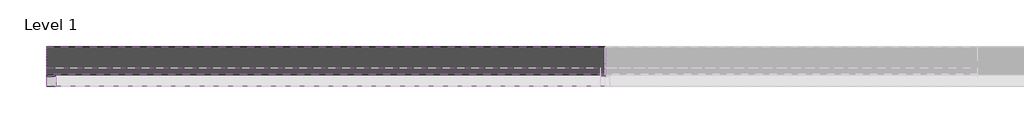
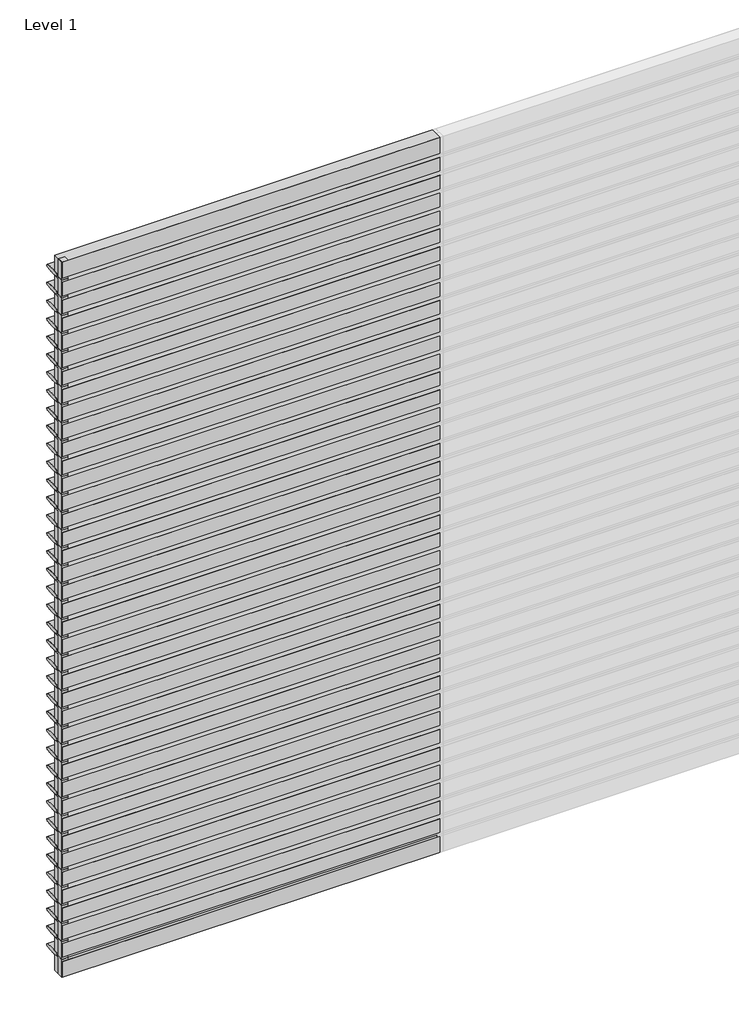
# One storey, part 1 of 3: 79 members, 41 plates.
"""IFC4 building model written with IfcOpenShell, lengths in millimetres."""

import ifcopenshell
import ifcopenshell.guid

model = None  # the IFC model being written
_history = None  # IfcOwnerHistory: only IFC2X3 demands one
_inside = {}  # id of a spatial element -> (the spatial element, [elements in it])
_under = {}  # id of a project, library or spatial element -> (it, [spatial elements below it])
_declared = {}  # id of a project -> (the project, [libraries it declares])
_typed = {}  # id of a type object -> (the type object, [elements of that type])
_made_of = {}  # id of a material, layer set ... -> (it, [elements and type objects made of it])


def new_model(schema):
    """Start an empty IFC model of exactly this schema.

    Asked for "IFC4X3", IfcOpenShell would pick the latest addendum, in which some entities
    have other attributes; the version numbers below select the first issue.
    IFC2X3 requires an IfcOwnerHistory on every rooted entity: one is made here for all.
    """
    global model, _history
    if schema == "IFC4X3":
        model = ifcopenshell.file(schema_version=(4, 3, 0, 0))
    else:
        model = ifcopenshell.file(schema=schema)
    _inside.clear()
    _under.clear()
    _declared.clear()
    _typed.clear()
    _made_of.clear()
    _history = None
    if model.schema == "IFC2X3":
        org = make("IfcOrganization", Name="unknown")
        user = make(
            "IfcPersonAndOrganization",
            ThePerson=make("IfcPerson", FamilyName="unknown"),
            TheOrganization=org,
        )
        app = make(
            "IfcApplication",
            ApplicationDeveloper=org,
            Version="unknown",
            ApplicationFullName="unknown",
            ApplicationIdentifier="unknown",
        )
        _history = make(
            "IfcOwnerHistory",
            OwningUser=user,
            OwningApplication=app,
            ChangeAction="ADDED",
            CreationDate=0,
        )
    return model


def make(cls, **values):
    """One entity of the class cls with the attributes given. An attribute that is None is left unset."""
    return model.create_entity(
        cls, **{name: value for name, value in values.items() if value is not None}
    )


def rooted(cls, **values):
    """An entity with a GlobalId (a new one), such as an element, a storey or a relation."""
    return make(cls, GlobalId=ifcopenshell.guid.new(), OwnerHistory=_history, **values)


def si_unit(unit_type, name, prefix=None):
    """IfcSIUnit, for example si_unit("LENGTHUNIT", "METRE", prefix="MILLI")."""
    return make("IfcSIUnit", UnitType=unit_type, Prefix=prefix, Name=name)


def assignment(units):
    """IfcUnitAssignment: the units of a project."""
    return None if units is None else make("IfcUnitAssignment", Units=units)


def point(xyz):
    """IfcCartesianPoint."""
    return None if xyz is None else make("IfcCartesianPoint", Coordinates=xyz)


def direction(xyz):
    """IfcDirection."""
    return None if xyz is None else make("IfcDirection", DirectionRatios=xyz)


def frame(location, z_axis=None, x_axis=None):
    """IfcAxis2Placement3D, a coordinate frame: its origin and axes. An axis left out is left unset."""
    return make(
        "IfcAxis2Placement3D",
        Location=point(location),
        Axis=direction(z_axis),
        RefDirection=direction(x_axis),
    )


def origin():
    """The frame at (0, 0, 0) with its axes left unset."""
    return frame((0.0, 0.0, 0.0))


def origin_with_axes():
    """The frame at (0, 0, 0) with the z axis (0, 0, 1) and the x axis (1, 0, 0) written out."""
    return frame((0.0, 0.0, 0.0), z_axis=(0.0, 0.0, 1.0), x_axis=(1.0, 0.0, 0.0))


def place(relative_to, where):
    """IfcLocalPlacement: puts the frame where relative to a parent placement (None: the world)."""
    return make(
        "IfcLocalPlacement", PlacementRelTo=relative_to, RelativePlacement=where
    )


def context(
    kind, dimensions, precision=None, world=None, true_north=None, identifier=None
):
    """IfcGeometricRepresentationContext, for example the 3D "Model" context."""
    return make(
        "IfcGeometricRepresentationContext",
        ContextIdentifier=identifier,
        ContextType=kind,
        CoordinateSpaceDimension=dimensions,
        Precision=precision,
        WorldCoordinateSystem=world,
        TrueNorth=true_north,
    )


def project(units=None, contexts=None):
    """IfcProject with its units and contexts."""
    return rooted(
        "IfcProject",
        Name="project",
        RepresentationContexts=contexts,
        UnitsInContext=assignment(units),
    )


def spatial(cls, under=None, at=None, **own):
    """A site, building, storey or space (cls), placed at a placement, below another one or the project."""
    s = rooted(cls, ObjectPlacement=at, **own)
    if under is not None:
        _under.setdefault(under.id(), (under, []))[1].append(s)
    return s


def polyline(points):
    """IfcPolyline through the points."""
    return make("IfcPolyline", Points=[point(p) for p in points])


def ellipse_curve(where, semi_axis1, semi_axis2):
    """IfcEllipse in the frame where."""
    return make(
        "IfcEllipse", Position=where, SemiAxis1=semi_axis1, SemiAxis2=semi_axis2
    )


def trimmed(basis, trim1, trim2, sense, master):
    """IfcTrimmedCurve: the piece of a basis curve between two trims."""
    return make(
        "IfcTrimmedCurve",
        BasisCurve=basis,
        Trim1=trim1,
        Trim2=trim2,
        SenseAgreement=sense,
        MasterRepresentation=master,
    )


def outline(outer, holes=None, kind="AREA"):
    """IfcArbitraryClosedProfileDef: a profile drawn as a closed curve; with holes, ...WithVoids."""
    if holes is None:
        return make("IfcArbitraryClosedProfileDef", ProfileType=kind, OuterCurve=outer)
    return make(
        "IfcArbitraryProfileDefWithVoids",
        ProfileType=kind,
        OuterCurve=outer,
        InnerCurves=holes,
    )


def extrude(swept, where, along, depth):
    """IfcExtrudedAreaSolid: the profile swept, set in the frame where, extruded along a direction by depth."""
    return make(
        "IfcExtrudedAreaSolid",
        SweptArea=swept,
        Position=where,
        ExtrudedDirection=direction(along),
        Depth=depth,
    )


def shape(context_of_items, identifier, shape_type, items):
    """IfcShapeRepresentation: the items that make up one representation, for example the "Body"."""
    return make(
        "IfcShapeRepresentation",
        ContextOfItems=context_of_items,
        RepresentationIdentifier=identifier,
        RepresentationType=shape_type,
        Items=items,
    )


def source(mapping_origin, context_of_items, identifier, shape_type, items):
    """IfcRepresentationMap: a shape defined once, which mapped items show again and again."""
    return make(
        "IfcRepresentationMap",
        MappingOrigin=mapping_origin,
        MappedRepresentation=shape(context_of_items, identifier, shape_type, items),
    )


def transform(
    local_origin,
    x_axis=None,
    y_axis=None,
    z_axis=None,
    scale=None,
    scale2=None,
    scale3=None,
    uniform=True,
):
    """IfcCartesianTransformationOperator3D, or its non-uniform kind. x_axis, y_axis, z_axis: its Axis1, 2, 3."""
    if uniform:
        return make(
            "IfcCartesianTransformationOperator3D",
            Axis1=direction(x_axis),
            Axis2=direction(y_axis),
            LocalOrigin=point(local_origin),
            Scale=scale,
            Axis3=direction(z_axis),
        )
    return make(
        "IfcCartesianTransformationOperator3DnonUniform",
        Axis1=direction(x_axis),
        Axis2=direction(y_axis),
        LocalOrigin=point(local_origin),
        Scale=scale,
        Axis3=direction(z_axis),
        Scale2=scale2,
        Scale3=scale3,
    )


def mapped(mapping_source, mapping_target):
    """IfcMappedItem: shows the shape of a source again, moved by a transform."""
    return make(
        "IfcMappedItem", MappingSource=mapping_source, MappingTarget=mapping_target
    )


def made_of(thing, what):
    """Note that an element or type object is made of a material, layer set ...; save() writes the relation."""
    if what is not None:
        _made_of.setdefault(what.id(), (what, []))[1].append(thing)
    return thing


def element(
    cls,
    number,
    at=None,
    inside=None,
    cuts=None,
    type_object=None,
    material=None,
    context=None,
    identifier="Body",
    shape_type=None,
    held_by="IfcProductDefinitionShape",
    body=None,
    shapes=None,
    **own,
):
    """One element of the class cls, such as IfcWall. Its Tag is "e" and its number.

    at: its placement. inside: the storey or other place that contains it. cuts: it is an
    opening in that element (IfcRelVoidsElement). A single representation is given by context,
    identifier, shape_type and body (its items); several are given by shapes. held_by: the class
    of the entity that holds the representations. save() writes the other relations.
    """
    e = rooted(cls, Tag="e%d" % number, ObjectPlacement=at, **own)
    if body is not None:
        shapes = [shape(context, identifier, shape_type, body)]
    if shapes is not None:
        e.Representation = make(held_by, Representations=shapes)
    if inside is not None:
        _inside.setdefault(inside.id(), (inside, []))[1].append(e)
    if cuts is not None:
        rooted(
            "IfcRelVoidsElement", RelatingBuildingElement=cuts, RelatedOpeningElement=e
        )
    if type_object is not None:
        _typed.setdefault(type_object.id(), (type_object, []))[1].append(e)
    return made_of(e, material)


def aggregate(whole, parts):
    """IfcRelAggregates: a whole, such as a stair, and the parts it consists of."""
    return rooted("IfcRelAggregates", RelatingObject=whole, RelatedObjects=parts)


def save(model, path):
    """Write the relations noted so far, then the file.

    IfcRelAggregates (storeys below a building ...), IfcRelContainedInSpatialStructure (elements
    in a storey), IfcRelDefinesByType, IfcRelAssociatesMaterial and IfcRelDeclares: one each for
    every whole, place, type object, material and project.
    """
    for whole, parts in _under.values():
        aggregate(whole, parts)
    for where, things in _inside.values():
        rooted(
            "IfcRelContainedInSpatialStructure",
            RelatedElements=things,
            RelatingStructure=where,
        )
    for kind, things in _typed.values():
        rooted("IfcRelDefinesByType", RelatedObjects=things, RelatingType=kind)
    for what, things in _made_of.values():
        rooted("IfcRelAssociatesMaterial", RelatedObjects=things, RelatingMaterial=what)
    for by, libraries in _declared.values():
        rooted("IfcRelDeclares", RelatingContext=by, RelatedDefinitions=libraries)
    model.write(path)


def plane_surface(at):
    """IfcPlane: the flat surface through the origin of the frame at, square to its z axis."""
    return make("IfcPlane", Position=at)


def extruded_surface(curve, direction_of_extrusion, depth):
    """IfcSurfaceOfLinearExtrusion: the curve pushed along a direction by depth."""
    return make(
        "IfcSurfaceOfLinearExtrusion",
        SweptCurve=make("IfcArbitraryOpenProfileDef", ProfileType="CURVE", Curve=curve),
        ExtrudedDirection=direction(direction_of_extrusion),
        Depth=depth,
    )


def advanced_brep(points, edges, surfaces, faces):
    """IfcAdvancedBrep: a solid bounded by faces that lie on surfaces and meet in shared edges.

    An edge is (start, end): straight between two places in points (the first is 0);
    or (start, end, curve); or (start, end, curve, False) where it runs against its curve.
    A face is (place in surfaces, loops), or (place, loops, False) where it looks against
    its surface's normal. A loop lists edges by number (the first is 1), with a minus sign
    where the edge is run from its end to its start. The first loop is the outer one.
    """
    corners = [point(p) for p in points]
    vertices = [make("IfcVertexPoint", VertexGeometry=c) for c in corners]
    made = []
    for start, end, *more in edges:
        made.append(
            make(
                "IfcEdgeCurve",
                EdgeStart=vertices[start],
                EdgeEnd=vertices[end],
                EdgeGeometry=more[0] if more else make("IfcPolyline", Points=[corners[start], corners[end]]),
                SameSense=more[1] if len(more) > 1 else True,
            )
        )
    hull = []
    for where, loops, *sense in faces:
        bounds = []
        for j, loop in enumerate(loops):
            ring = [make("IfcOrientedEdge", EdgeElement=made[abs(k) - 1], Orientation=k > 0) for k in loop]
            bounds.append(
                make(
                    "IfcFaceOuterBound" if j == 0 else "IfcFaceBound",
                    Bound=make("IfcEdgeLoop", EdgeList=ring),
                    Orientation=True,
                )
            )
        hull.append(make("IfcAdvancedFace", Bounds=bounds, FaceSurface=surfaces[where], SameSense=sense[0] if sense else True))
    return make("IfcAdvancedBrep", Outer=make("IfcClosedShell", CfsFaces=hull))


def rectangular_mullion_822d50ae(model_context):
    return source(origin(), model_context, "Body", "AdvancedBrep", [
        advanced_brep(
        [(0.0, 13.0, 0.0), (0.0, 163.0, 0.0), (0.0, 13.0, -3000.0), (0.0, 163.0, -3000.0)],
        [
            (0, 1, ellipse_curve(frame((0.0, 88.0, 0.0), z_axis=(0.0, 0.0, 1.0), x_axis=(0.0, 1.0, 0.0)), 75.0, 17.5)),
            (1, 0, ellipse_curve(frame((0.0, 88.0, 0.0), z_axis=(0.0, 0.0, 1.0), x_axis=(0.0, 1.0, 0.0)), 75.0, 17.5)),
            (2, 3, ellipse_curve(frame((0.0, 88.0, -3000.0), z_axis=(0.0, 0.0, -1.0), x_axis=(0.0, 1.0, 0.0)), 75.0, 17.5)),
            (3, 2, ellipse_curve(frame((0.0, 88.0, -3000.0), z_axis=(0.0, 0.0, -1.0), x_axis=(0.0, 1.0, 0.0)), 75.0, 17.5)),
            (0, 2),
            (3, 1),
        ],
        [
            plane_surface(frame((0.0, -163.0, 0.0), z_axis=(0.0, 0.0, 1.0), x_axis=(-1.0, 0.0, 0.0))),
            plane_surface(frame((0.0, -163.0, -3000.0), z_axis=(0.0, 0.0, -1.0), x_axis=(-1.0, 0.0, 0.0))),
            extruded_surface(trimmed(ellipse_curve(frame((0.0, 88.0, -3000.0), z_axis=(0.0, 0.0, 1.0), x_axis=(0.0, 1.0, 0.0)), 75.0, 17.5), [point((0.0, 13.0, -3000.0))], [point((0.0, 163.0, -3000.0))], True, "CARTESIAN"), (0.0, 0.0, 3000.0), 3000.0),
            extruded_surface(trimmed(ellipse_curve(frame((0.0, 88.0, -3000.0), z_axis=(0.0, 0.0, 1.0), x_axis=(0.0, 1.0, 0.0)), 75.0, 17.5), [point((0.0, 163.0, -3000.0))], [point((0.0, 13.0, -3000.0))], True, "CARTESIAN"), (0.0, 0.0, 3000.0), 3000.0),
        ],
        [
            (0, [[1, 2]]),
            (1, [[3, 4]]),
            (2, [[-1, 5, -4, 6]]),
            (3, [[-2, -6, -3, -5]]),
        ],
    ),
    ])


def rectangular_mullion_6265e8b1(model_context):
    return source(origin(), model_context, "Body", "SweptSolid", [
        extrude(outline(polyline([(0.0, 1.0), (0.0, -49.0), (-50.0, -49.0), (-50.0, 1.0), (0.0, 1.0)])), frame((0.0, 0.0, -150.0), z_axis=(0.0, 0.0, 1.0), x_axis=(1.0, 0.0, 0.0)), (0.0, 0.0, 1.0), 150.0),
    ])


def empty_system_panel_empty_095e2861(model_context):
    return source(origin(), model_context, "Body", "SweptSolid", [
        extrude(outline(polyline([(1500.0, -50.0), (-1500.0, -50.0), (-1500.0, 50.0), (1500.0, 50.0), (1500.0, -50.0)])), origin_with_axes(), (0.0, 0.0, 1.0), 132.5),
    ])


def empty_system_panel_empty_98f2a64c(model_context):
    return source(origin(), model_context, "Body", "SweptSolid", [
        extrude(outline(polyline([(1500.0, -50.0), (-1500.0, -50.0), (-1500.0, 50.0), (1500.0, 50.0), (1500.0, -50.0)])), origin_with_axes(), (0.0, 0.0, 1.0), 115.0),
    ])


def empty_system_panel_empty_149e9d60(model_context):
    return source(origin(), model_context, "Body", "SweptSolid", [
        extrude(outline(polyline([(1462.5, -50.0), (-1462.5, -50.0), (-1462.5, 50.0), (1462.5, 50.0), (1462.5, -50.0)])), origin_with_axes(), (0.0, 0.0, 1.0), 150.0),
    ])


model = new_model("IFC4")

# Units and contexts
model_context = context("Model", 3, world=origin())
ifc_project = project(units=[si_unit("LENGTHUNIT", "METRE", prefix="MILLI")], contexts=[model_context])

# Site, building, storey
site = spatial("IfcSite", under=ifc_project)
building = spatial("IfcBuilding", under=site)
storey = spatial("IfcBuildingStorey", under=building, Name="Level 1", Elevation=0.0)

# Members
placement = place(None, origin())
rectangular_mullion_shape = rectangular_mullion_822d50ae(model_context)
element("IfcMember", 1, ObjectType="Rectangular Mullion : RSen_21_CWM_blade - 150 ellips - 0°_gen_duco projects", at=placement, inside=storey, context=model_context, shape_type="MappedRepresentation", body=[
    mapped(rectangular_mullion_shape, transform((0.0, 3000.0, 150.0), x_axis=(0.0, 0.0, 1.0), y_axis=(0.0, 1.0, 0.0), z_axis=(-1.0, 0.0, 0.0))),
])
element("IfcMember", 2, ObjectType="Rectangular Mullion : RSen_21_CWM_blade - 150 ellips - 0°_gen_duco projects", at=placement, inside=storey, context=model_context, shape_type="MappedRepresentation", body=[
    mapped(rectangular_mullion_shape, transform((0.0, 3000.0, 300.0), x_axis=(0.0, 0.0, 1.0), y_axis=(0.0, 1.0, 0.0), z_axis=(-1.0, 0.0, 0.0))),
])
element("IfcMember", 3, ObjectType="Rectangular Mullion : RSen_21_CWM_blade - 150 ellips - 0°_gen_duco projects", at=placement, inside=storey, context=model_context, shape_type="MappedRepresentation", body=[
    mapped(rectangular_mullion_shape, transform((0.0, 3000.0, 450.0), x_axis=(0.0, 0.0, 1.0), y_axis=(0.0, 1.0, 0.0), z_axis=(-1.0, 0.0, 0.0))),
])
element("IfcMember", 4, ObjectType="Rectangular Mullion : RSen_21_CWM_blade - 150 ellips - 0°_gen_duco projects", at=placement, inside=storey, context=model_context, shape_type="MappedRepresentation", body=[
    mapped(rectangular_mullion_shape, transform((0.0, 3000.0, 600.0), x_axis=(0.0, 0.0, 1.0), y_axis=(0.0, 1.0, 0.0), z_axis=(-1.0, 0.0, 0.0))),
])
element("IfcMember", 5, ObjectType="Rectangular Mullion : RSen_21_CWM_blade - 150 ellips - 0°_gen_duco projects", at=placement, inside=storey, context=model_context, shape_type="MappedRepresentation", body=[
    mapped(rectangular_mullion_shape, transform((0.0, 3000.0, 750.0), x_axis=(0.0, 0.0, 1.0), y_axis=(0.0, 1.0, 0.0), z_axis=(-1.0, 0.0, 0.0))),
])
element("IfcMember", 6, ObjectType="Rectangular Mullion : RSen_21_CWM_blade - 150 ellips - 0°_gen_duco projects", at=placement, inside=storey, context=model_context, shape_type="MappedRepresentation", body=[
    mapped(rectangular_mullion_shape, transform((0.0, 3000.0, 900.0), x_axis=(0.0, 0.0, 1.0), y_axis=(0.0, 1.0, 0.0), z_axis=(-1.0, 0.0, 0.0))),
])
element("IfcMember", 7, ObjectType="Rectangular Mullion : RSen_21_CWM_blade - 150 ellips - 0°_gen_duco projects", at=placement, inside=storey, context=model_context, shape_type="MappedRepresentation", body=[
    mapped(rectangular_mullion_shape, transform((0.0, 3000.0, 1050.0), x_axis=(0.0, 0.0, 1.0), y_axis=(0.0, 1.0, 0.0), z_axis=(-1.0, 0.0, 0.0))),
])
element("IfcMember", 8, ObjectType="Rectangular Mullion : RSen_21_CWM_blade - 150 ellips - 0°_gen_duco projects", at=placement, inside=storey, context=model_context, shape_type="MappedRepresentation", body=[
    mapped(rectangular_mullion_shape, transform((0.0, 3000.0, 1200.0), x_axis=(0.0, 0.0, 1.0), y_axis=(0.0, 1.0, 0.0), z_axis=(-1.0, 0.0, 0.0))),
])
element("IfcMember", 9, ObjectType="Rectangular Mullion : RSen_21_CWM_blade - 150 ellips - 0°_gen_duco projects", at=placement, inside=storey, context=model_context, shape_type="MappedRepresentation", body=[
    mapped(rectangular_mullion_shape, transform((0.0, 3000.0, 1350.0), x_axis=(0.0, 0.0, 1.0), y_axis=(0.0, 1.0, 0.0), z_axis=(-1.0, 0.0, 0.0))),
])
element("IfcMember", 10, ObjectType="Rectangular Mullion : RSen_21_CWM_blade - 150 ellips - 0°_gen_duco projects", at=placement, inside=storey, context=model_context, shape_type="MappedRepresentation", body=[
    mapped(rectangular_mullion_shape, transform((0.0, 3000.0, 1500.0), x_axis=(0.0, 0.0, 1.0), y_axis=(0.0, 1.0, 0.0), z_axis=(-1.0, 0.0, 0.0))),
])
element("IfcMember", 11, ObjectType="Rectangular Mullion : RSen_21_CWM_blade - 150 ellips - 0°_gen_duco projects", at=placement, inside=storey, context=model_context, shape_type="MappedRepresentation", body=[
    mapped(rectangular_mullion_shape, transform((0.0, 3000.0, 1650.0), x_axis=(0.0, 0.0, 1.0), y_axis=(0.0, 1.0, 0.0), z_axis=(-1.0, 0.0, 0.0))),
])
element("IfcMember", 12, ObjectType="Rectangular Mullion : RSen_21_CWM_blade - 150 ellips - 0°_gen_duco projects", at=placement, inside=storey, context=model_context, shape_type="MappedRepresentation", body=[
    mapped(rectangular_mullion_shape, transform((0.0, 3000.0, 1800.0), x_axis=(0.0, 0.0, 1.0), y_axis=(0.0, 1.0, 0.0), z_axis=(-1.0, 0.0, 0.0))),
])
element("IfcMember", 13, ObjectType="Rectangular Mullion : RSen_21_CWM_blade - 150 ellips - 0°_gen_duco projects", at=placement, inside=storey, context=model_context, shape_type="MappedRepresentation", body=[
    mapped(rectangular_mullion_shape, transform((0.0, 3000.0, 1950.0), x_axis=(0.0, 0.0, 1.0), y_axis=(0.0, 1.0, 0.0), z_axis=(-1.0, 0.0, 0.0))),
])
element("IfcMember", 14, ObjectType="Rectangular Mullion : RSen_21_CWM_blade - 150 ellips - 0°_gen_duco projects", at=placement, inside=storey, context=model_context, shape_type="MappedRepresentation", body=[
    mapped(rectangular_mullion_shape, transform((0.0, 3000.0, 2100.0), x_axis=(0.0, 0.0, 1.0), y_axis=(0.0, 1.0, 0.0), z_axis=(-1.0, 0.0, 0.0))),
])
element("IfcMember", 15, ObjectType="Rectangular Mullion : RSen_21_CWM_blade - 150 ellips - 0°_gen_duco projects", at=placement, inside=storey, context=model_context, shape_type="MappedRepresentation", body=[
    mapped(rectangular_mullion_shape, transform((0.0, 3000.0, 2250.0), x_axis=(0.0, 0.0, 1.0), y_axis=(0.0, 1.0, 0.0), z_axis=(-1.0, 0.0, 0.0))),
])
element("IfcMember", 16, ObjectType="Rectangular Mullion : RSen_21_CWM_blade - 150 ellips - 0°_gen_duco projects", at=placement, inside=storey, context=model_context, shape_type="MappedRepresentation", body=[
    mapped(rectangular_mullion_shape, transform((0.0, 3000.0, 2400.0), x_axis=(0.0, 0.0, 1.0), y_axis=(0.0, 1.0, 0.0), z_axis=(-1.0, 0.0, 0.0))),
])
element("IfcMember", 17, ObjectType="Rectangular Mullion : RSen_21_CWM_blade - 150 ellips - 0°_gen_duco projects", at=placement, inside=storey, context=model_context, shape_type="MappedRepresentation", body=[
    mapped(rectangular_mullion_shape, transform((0.0, 3000.0, 2550.0), x_axis=(0.0, 0.0, 1.0), y_axis=(0.0, 1.0, 0.0), z_axis=(-1.0, 0.0, 0.0))),
])
element("IfcMember", 18, ObjectType="Rectangular Mullion : RSen_21_CWM_blade - 150 ellips - 0°_gen_duco projects", at=placement, inside=storey, context=model_context, shape_type="MappedRepresentation", body=[
    mapped(rectangular_mullion_shape, transform((0.0, 3000.0, 2700.0), x_axis=(0.0, 0.0, 1.0), y_axis=(0.0, 1.0, 0.0), z_axis=(-1.0, 0.0, 0.0))),
])
element("IfcMember", 19, ObjectType="Rectangular Mullion : RSen_21_CWM_blade - 150 ellips - 0°_gen_duco projects", at=placement, inside=storey, context=model_context, shape_type="MappedRepresentation", body=[
    mapped(rectangular_mullion_shape, transform((0.0, 3000.0, 2850.0), x_axis=(0.0, 0.0, 1.0), y_axis=(0.0, 1.0, 0.0), z_axis=(-1.0, 0.0, 0.0))),
])
element("IfcMember", 20, ObjectType="Rectangular Mullion : RSen_21_CWM_blade - 150 ellips - 0°_gen_duco projects", at=placement, inside=storey, context=model_context, shape_type="MappedRepresentation", body=[
    mapped(rectangular_mullion_shape, transform((0.0, 3000.0, 3000.0), x_axis=(0.0, 0.0, 1.0), y_axis=(0.0, 1.0, 0.0), z_axis=(-1.0, 0.0, 0.0))),
])
element("IfcMember", 21, ObjectType="Rectangular Mullion : RSen_21_CWM_blade - 150 ellips - 0°_gen_duco projects", at=placement, inside=storey, context=model_context, shape_type="MappedRepresentation", body=[
    mapped(rectangular_mullion_shape, transform((0.0, 3000.0, 3150.0), x_axis=(0.0, 0.0, 1.0), y_axis=(0.0, 1.0, 0.0), z_axis=(-1.0, 0.0, 0.0))),
])
element("IfcMember", 22, ObjectType="Rectangular Mullion : RSen_21_CWM_blade - 150 ellips - 0°_gen_duco projects", at=placement, inside=storey, context=model_context, shape_type="MappedRepresentation", body=[
    mapped(rectangular_mullion_shape, transform((0.0, 3000.0, 3300.0), x_axis=(0.0, 0.0, 1.0), y_axis=(0.0, 1.0, 0.0), z_axis=(-1.0, 0.0, 0.0))),
])
element("IfcMember", 23, ObjectType="Rectangular Mullion : RSen_21_CWM_blade - 150 ellips - 0°_gen_duco projects", at=placement, inside=storey, context=model_context, shape_type="MappedRepresentation", body=[
    mapped(rectangular_mullion_shape, transform((0.0, 3000.0, 3450.0), x_axis=(0.0, 0.0, 1.0), y_axis=(0.0, 1.0, 0.0), z_axis=(-1.0, 0.0, 0.0))),
])
element("IfcMember", 24, ObjectType="Rectangular Mullion : RSen_21_CWM_blade - 150 ellips - 0°_gen_duco projects", at=placement, inside=storey, context=model_context, shape_type="MappedRepresentation", body=[
    mapped(rectangular_mullion_shape, transform((0.0, 3000.0, 3600.0), x_axis=(0.0, 0.0, 1.0), y_axis=(0.0, 1.0, 0.0), z_axis=(-1.0, 0.0, 0.0))),
])
element("IfcMember", 25, ObjectType="Rectangular Mullion : RSen_21_CWM_blade - 150 ellips - 0°_gen_duco projects", at=placement, inside=storey, context=model_context, shape_type="MappedRepresentation", body=[
    mapped(rectangular_mullion_shape, transform((0.0, 3000.0, 3750.0), x_axis=(0.0, 0.0, 1.0), y_axis=(0.0, 1.0, 0.0), z_axis=(-1.0, 0.0, 0.0))),
])
element("IfcMember", 26, ObjectType="Rectangular Mullion : RSen_21_CWM_blade - 150 ellips - 0°_gen_duco projects", at=placement, inside=storey, context=model_context, shape_type="MappedRepresentation", body=[
    mapped(rectangular_mullion_shape, transform((0.0, 3000.0, 3900.0), x_axis=(0.0, 0.0, 1.0), y_axis=(0.0, 1.0, 0.0), z_axis=(-1.0, 0.0, 0.0))),
])
element("IfcMember", 27, ObjectType="Rectangular Mullion : RSen_21_CWM_blade - 150 ellips - 0°_gen_duco projects", at=placement, inside=storey, context=model_context, shape_type="MappedRepresentation", body=[
    mapped(rectangular_mullion_shape, transform((0.0, 3000.0, 4050.0), x_axis=(0.0, 0.0, 1.0), y_axis=(0.0, 1.0, 0.0), z_axis=(-1.0, 0.0, 0.0))),
])
element("IfcMember", 28, ObjectType="Rectangular Mullion : RSen_21_CWM_blade - 150 ellips - 0°_gen_duco projects", at=placement, inside=storey, context=model_context, shape_type="MappedRepresentation", body=[
    mapped(rectangular_mullion_shape, transform((0.0, 3000.0, 4200.0), x_axis=(0.0, 0.0, 1.0), y_axis=(0.0, 1.0, 0.0), z_axis=(-1.0, 0.0, 0.0))),
])
element("IfcMember", 29, ObjectType="Rectangular Mullion : RSen_21_CWM_blade - 150 ellips - 0°_gen_duco projects", at=placement, inside=storey, context=model_context, shape_type="MappedRepresentation", body=[
    mapped(rectangular_mullion_shape, transform((0.0, 3000.0, 4350.0), x_axis=(0.0, 0.0, 1.0), y_axis=(0.0, 1.0, 0.0), z_axis=(-1.0, 0.0, 0.0))),
])
element("IfcMember", 30, ObjectType="Rectangular Mullion : RSen_21_CWM_blade - 150 ellips - 0°_gen_duco projects", at=placement, inside=storey, context=model_context, shape_type="MappedRepresentation", body=[
    mapped(rectangular_mullion_shape, transform((0.0, 3000.0, 4500.0), x_axis=(0.0, 0.0, 1.0), y_axis=(0.0, 1.0, 0.0), z_axis=(-1.0, 0.0, 0.0))),
])
element("IfcMember", 31, ObjectType="Rectangular Mullion : RSen_21_CWM_blade - 150 ellips - 0°_gen_duco projects", at=placement, inside=storey, context=model_context, shape_type="MappedRepresentation", body=[
    mapped(rectangular_mullion_shape, transform((0.0, 3000.0, 4650.0), x_axis=(0.0, 0.0, 1.0), y_axis=(0.0, 1.0, 0.0), z_axis=(-1.0, 0.0, 0.0))),
])
element("IfcMember", 32, ObjectType="Rectangular Mullion : RSen_21_CWM_blade - 150 ellips - 0°_gen_duco projects", at=placement, inside=storey, context=model_context, shape_type="MappedRepresentation", body=[
    mapped(rectangular_mullion_shape, transform((0.0, 3000.0, 4800.0), x_axis=(0.0, 0.0, 1.0), y_axis=(0.0, 1.0, 0.0), z_axis=(-1.0, 0.0, 0.0))),
])
element("IfcMember", 33, ObjectType="Rectangular Mullion : RSen_21_CWM_blade - 150 ellips - 0°_gen_duco projects", at=placement, inside=storey, context=model_context, shape_type="MappedRepresentation", body=[
    mapped(rectangular_mullion_shape, transform((0.0, 3000.0, 4950.0), x_axis=(0.0, 0.0, 1.0), y_axis=(0.0, 1.0, 0.0), z_axis=(-1.0, 0.0, 0.0))),
])
element("IfcMember", 34, ObjectType="Rectangular Mullion : RSen_21_CWM_blade - 150 ellips - 0°_gen_duco projects", at=placement, inside=storey, context=model_context, shape_type="MappedRepresentation", body=[
    mapped(rectangular_mullion_shape, transform((0.0, 3000.0, 5100.0), x_axis=(0.0, 0.0, 1.0), y_axis=(0.0, 1.0, 0.0), z_axis=(-1.0, 0.0, 0.0))),
])
element("IfcMember", 35, ObjectType="Rectangular Mullion : RSen_21_CWM_blade - 150 ellips - 0°_gen_duco projects", at=placement, inside=storey, context=model_context, shape_type="MappedRepresentation", body=[
    mapped(rectangular_mullion_shape, transform((0.0, 3000.0, 5250.0), x_axis=(0.0, 0.0, 1.0), y_axis=(0.0, 1.0, 0.0), z_axis=(-1.0, 0.0, 0.0))),
])
element("IfcMember", 36, ObjectType="Rectangular Mullion : RSen_21_CWM_blade - 150 ellips - 0°_gen_duco projects", at=placement, inside=storey, context=model_context, shape_type="MappedRepresentation", body=[
    mapped(rectangular_mullion_shape, transform((0.0, 3000.0, 5400.0), x_axis=(0.0, 0.0, 1.0), y_axis=(0.0, 1.0, 0.0), z_axis=(-1.0, 0.0, 0.0))),
])
element("IfcMember", 37, ObjectType="Rectangular Mullion : RSen_21_CWM_blade - 150 ellips - 0°_gen_duco projects", at=placement, inside=storey, context=model_context, shape_type="MappedRepresentation", body=[
    mapped(rectangular_mullion_shape, transform((0.0, 3000.0, 5550.0), x_axis=(0.0, 0.0, 1.0), y_axis=(0.0, 1.0, 0.0), z_axis=(-1.0, 0.0, 0.0))),
])
element("IfcMember", 38, ObjectType="Rectangular Mullion : RSen_21_CWM_blade - 150 ellips - 0°_gen_duco projects", at=placement, inside=storey, context=model_context, shape_type="MappedRepresentation", body=[
    mapped(rectangular_mullion_shape, transform((0.0, 3000.0, 5700.0), x_axis=(0.0, 0.0, 1.0), y_axis=(0.0, 1.0, 0.0), z_axis=(-1.0, 0.0, 0.0))),
])
element("IfcMember", 39, ObjectType="Rectangular Mullion : RSen_21_CWM_blade - 150 ellips - 0°_gen_duco projects", at=placement, inside=storey, context=model_context, shape_type="MappedRepresentation", body=[
    mapped(rectangular_mullion_shape, transform((0.0, 3000.0, 5850.0), x_axis=(0.0, 0.0, 1.0), y_axis=(0.0, 1.0, 0.0), z_axis=(-1.0, 0.0, 0.0))),
])
rectangular_mullion_2_shape = rectangular_mullion_6265e8b1(model_context)
element("IfcMember", 40, ObjectType="Rectangular Mullion : RSen_21_CWM_support profile 50x50 - left_gen_duco projects", at=placement, inside=storey, context=model_context, shape_type="MappedRepresentation", body=[
    mapped(rectangular_mullion_2_shape, transform((0.0, 3000.0, 0.0), x_axis=(-1.0, 0.0, 0.0), y_axis=(0.0, 1.0, 0.0), z_axis=(0.0, 0.0, -1.0))),
])
element("IfcMember", 41, ObjectType="Rectangular Mullion : RSen_21_CWM_support profile 50x50 - left_gen_duco projects", at=placement, inside=storey, context=model_context, shape_type="MappedRepresentation", body=[
    mapped(rectangular_mullion_2_shape, transform((0.0, 3000.0, 150.0), x_axis=(-1.0, 0.0, 0.0), y_axis=(0.0, 1.0, 0.0), z_axis=(0.0, 0.0, -1.0))),
])
element("IfcMember", 42, ObjectType="Rectangular Mullion : RSen_21_CWM_support profile 50x50 - left_gen_duco projects", at=placement, inside=storey, context=model_context, shape_type="MappedRepresentation", body=[
    mapped(rectangular_mullion_2_shape, transform((0.0, 3000.0, 300.0), x_axis=(-1.0, 0.0, 0.0), y_axis=(0.0, 1.0, 0.0), z_axis=(0.0, 0.0, -1.0))),
])
element("IfcMember", 43, ObjectType="Rectangular Mullion : RSen_21_CWM_support profile 50x50 - left_gen_duco projects", at=placement, inside=storey, context=model_context, shape_type="MappedRepresentation", body=[
    mapped(rectangular_mullion_2_shape, transform((0.0, 3000.0, 450.0), x_axis=(-1.0, 0.0, 0.0), y_axis=(0.0, 1.0, 0.0), z_axis=(0.0, 0.0, -1.0))),
])
element("IfcMember", 44, ObjectType="Rectangular Mullion : RSen_21_CWM_support profile 50x50 - left_gen_duco projects", at=placement, inside=storey, context=model_context, shape_type="MappedRepresentation", body=[
    mapped(rectangular_mullion_2_shape, transform((0.0, 3000.0, 600.0), x_axis=(-1.0, 0.0, 0.0), y_axis=(0.0, 1.0, 0.0), z_axis=(0.0, 0.0, -1.0))),
])
element("IfcMember", 45, ObjectType="Rectangular Mullion : RSen_21_CWM_support profile 50x50 - left_gen_duco projects", at=placement, inside=storey, context=model_context, shape_type="MappedRepresentation", body=[
    mapped(rectangular_mullion_2_shape, transform((0.0, 3000.0, 750.0), x_axis=(-1.0, 0.0, 0.0), y_axis=(0.0, 1.0, 0.0), z_axis=(0.0, 0.0, -1.0))),
])
element("IfcMember", 46, ObjectType="Rectangular Mullion : RSen_21_CWM_support profile 50x50 - left_gen_duco projects", at=placement, inside=storey, context=model_context, shape_type="MappedRepresentation", body=[
    mapped(rectangular_mullion_2_shape, transform((0.0, 3000.0, 900.0), x_axis=(-1.0, 0.0, 0.0), y_axis=(0.0, 1.0, 0.0), z_axis=(0.0, 0.0, -1.0))),
])
element("IfcMember", 47, ObjectType="Rectangular Mullion : RSen_21_CWM_support profile 50x50 - left_gen_duco projects", at=placement, inside=storey, context=model_context, shape_type="MappedRepresentation", body=[
    mapped(rectangular_mullion_2_shape, transform((0.0, 3000.0, 1050.0), x_axis=(-1.0, 0.0, 0.0), y_axis=(0.0, 1.0, 0.0), z_axis=(0.0, 0.0, -1.0))),
])
element("IfcMember", 48, ObjectType="Rectangular Mullion : RSen_21_CWM_support profile 50x50 - left_gen_duco projects", at=placement, inside=storey, context=model_context, shape_type="MappedRepresentation", body=[
    mapped(rectangular_mullion_2_shape, transform((0.0, 3000.0, 1200.0), x_axis=(-1.0, 0.0, 0.0), y_axis=(0.0, 1.0, 0.0), z_axis=(0.0, 0.0, -1.0))),
])
element("IfcMember", 49, ObjectType="Rectangular Mullion : RSen_21_CWM_support profile 50x50 - left_gen_duco projects", at=placement, inside=storey, context=model_context, shape_type="MappedRepresentation", body=[
    mapped(rectangular_mullion_2_shape, transform((0.0, 3000.0, 1350.0), x_axis=(-1.0, 0.0, 0.0), y_axis=(0.0, 1.0, 0.0), z_axis=(0.0, 0.0, -1.0))),
])
element("IfcMember", 50, ObjectType="Rectangular Mullion : RSen_21_CWM_support profile 50x50 - left_gen_duco projects", at=placement, inside=storey, context=model_context, shape_type="MappedRepresentation", body=[
    mapped(rectangular_mullion_2_shape, transform((0.0, 3000.0, 1500.0), x_axis=(-1.0, 0.0, 0.0), y_axis=(0.0, 1.0, 0.0), z_axis=(0.0, 0.0, -1.0))),
])
element("IfcMember", 51, ObjectType="Rectangular Mullion : RSen_21_CWM_support profile 50x50 - left_gen_duco projects", at=placement, inside=storey, context=model_context, shape_type="MappedRepresentation", body=[
    mapped(rectangular_mullion_2_shape, transform((0.0, 3000.0, 1650.0), x_axis=(-1.0, 0.0, 0.0), y_axis=(0.0, 1.0, 0.0), z_axis=(0.0, 0.0, -1.0))),
])
element("IfcMember", 52, ObjectType="Rectangular Mullion : RSen_21_CWM_support profile 50x50 - left_gen_duco projects", at=placement, inside=storey, context=model_context, shape_type="MappedRepresentation", body=[
    mapped(rectangular_mullion_2_shape, transform((0.0, 3000.0, 1800.0), x_axis=(-1.0, 0.0, 0.0), y_axis=(0.0, 1.0, 0.0), z_axis=(0.0, 0.0, -1.0))),
])
element("IfcMember", 53, ObjectType="Rectangular Mullion : RSen_21_CWM_support profile 50x50 - left_gen_duco projects", at=placement, inside=storey, context=model_context, shape_type="MappedRepresentation", body=[
    mapped(rectangular_mullion_2_shape, transform((0.0, 3000.0, 1950.0), x_axis=(-1.0, 0.0, 0.0), y_axis=(0.0, 1.0, 0.0), z_axis=(0.0, 0.0, -1.0))),
])
element("IfcMember", 54, ObjectType="Rectangular Mullion : RSen_21_CWM_support profile 50x50 - left_gen_duco projects", at=placement, inside=storey, context=model_context, shape_type="MappedRepresentation", body=[
    mapped(rectangular_mullion_2_shape, transform((0.0, 3000.0, 2100.0), x_axis=(-1.0, 0.0, 0.0), y_axis=(0.0, 1.0, 0.0), z_axis=(0.0, 0.0, -1.0))),
])
element("IfcMember", 55, ObjectType="Rectangular Mullion : RSen_21_CWM_support profile 50x50 - left_gen_duco projects", at=placement, inside=storey, context=model_context, shape_type="MappedRepresentation", body=[
    mapped(rectangular_mullion_2_shape, transform((0.0, 3000.0, 2250.0), x_axis=(-1.0, 0.0, 0.0), y_axis=(0.0, 1.0, 0.0), z_axis=(0.0, 0.0, -1.0))),
])
element("IfcMember", 56, ObjectType="Rectangular Mullion : RSen_21_CWM_support profile 50x50 - left_gen_duco projects", at=placement, inside=storey, context=model_context, shape_type="MappedRepresentation", body=[
    mapped(rectangular_mullion_2_shape, transform((0.0, 3000.0, 2400.0), x_axis=(-1.0, 0.0, 0.0), y_axis=(0.0, 1.0, 0.0), z_axis=(0.0, 0.0, -1.0))),
])
element("IfcMember", 57, ObjectType="Rectangular Mullion : RSen_21_CWM_support profile 50x50 - left_gen_duco projects", at=placement, inside=storey, context=model_context, shape_type="MappedRepresentation", body=[
    mapped(rectangular_mullion_2_shape, transform((0.0, 3000.0, 2550.0), x_axis=(-1.0, 0.0, 0.0), y_axis=(0.0, 1.0, 0.0), z_axis=(0.0, 0.0, -1.0))),
])
element("IfcMember", 58, ObjectType="Rectangular Mullion : RSen_21_CWM_support profile 50x50 - left_gen_duco projects", at=placement, inside=storey, context=model_context, shape_type="MappedRepresentation", body=[
    mapped(rectangular_mullion_2_shape, transform((0.0, 3000.0, 2700.0), x_axis=(-1.0, 0.0, 0.0), y_axis=(0.0, 1.0, 0.0), z_axis=(0.0, 0.0, -1.0))),
])
element("IfcMember", 59, ObjectType="Rectangular Mullion : RSen_21_CWM_support profile 50x50 - left_gen_duco projects", at=placement, inside=storey, context=model_context, shape_type="MappedRepresentation", body=[
    mapped(rectangular_mullion_2_shape, transform((0.0, 3000.0, 2850.0), x_axis=(-1.0, 0.0, 0.0), y_axis=(0.0, 1.0, 0.0), z_axis=(0.0, 0.0, -1.0))),
])
element("IfcMember", 60, ObjectType="Rectangular Mullion : RSen_21_CWM_support profile 50x50 - left_gen_duco projects", at=placement, inside=storey, context=model_context, shape_type="MappedRepresentation", body=[
    mapped(rectangular_mullion_2_shape, transform((0.0, 3000.0, 3000.0), x_axis=(-1.0, 0.0, 0.0), y_axis=(0.0, 1.0, 0.0), z_axis=(0.0, 0.0, -1.0))),
])
element("IfcMember", 61, ObjectType="Rectangular Mullion : RSen_21_CWM_support profile 50x50 - left_gen_duco projects", at=placement, inside=storey, context=model_context, shape_type="MappedRepresentation", body=[
    mapped(rectangular_mullion_2_shape, transform((0.0, 3000.0, 3150.0), x_axis=(-1.0, 0.0, 0.0), y_axis=(0.0, 1.0, 0.0), z_axis=(0.0, 0.0, -1.0))),
])
element("IfcMember", 62, ObjectType="Rectangular Mullion : RSen_21_CWM_support profile 50x50 - left_gen_duco projects", at=placement, inside=storey, context=model_context, shape_type="MappedRepresentation", body=[
    mapped(rectangular_mullion_2_shape, transform((0.0, 3000.0, 3300.0), x_axis=(-1.0, 0.0, 0.0), y_axis=(0.0, 1.0, 0.0), z_axis=(0.0, 0.0, -1.0))),
])
element("IfcMember", 63, ObjectType="Rectangular Mullion : RSen_21_CWM_support profile 50x50 - left_gen_duco projects", at=placement, inside=storey, context=model_context, shape_type="MappedRepresentation", body=[
    mapped(rectangular_mullion_2_shape, transform((0.0, 3000.0, 3450.0), x_axis=(-1.0, 0.0, 0.0), y_axis=(0.0, 1.0, 0.0), z_axis=(0.0, 0.0, -1.0))),
])
element("IfcMember", 64, ObjectType="Rectangular Mullion : RSen_21_CWM_support profile 50x50 - left_gen_duco projects", at=placement, inside=storey, context=model_context, shape_type="MappedRepresentation", body=[
    mapped(rectangular_mullion_2_shape, transform((0.0, 3000.0, 3600.0), x_axis=(-1.0, 0.0, 0.0), y_axis=(0.0, 1.0, 0.0), z_axis=(0.0, 0.0, -1.0))),
])
element("IfcMember", 65, ObjectType="Rectangular Mullion : RSen_21_CWM_support profile 50x50 - left_gen_duco projects", at=placement, inside=storey, context=model_context, shape_type="MappedRepresentation", body=[
    mapped(rectangular_mullion_2_shape, transform((0.0, 3000.0, 3750.0), x_axis=(-1.0, 0.0, 0.0), y_axis=(0.0, 1.0, 0.0), z_axis=(0.0, 0.0, -1.0))),
])
element("IfcMember", 66, ObjectType="Rectangular Mullion : RSen_21_CWM_support profile 50x50 - left_gen_duco projects", at=placement, inside=storey, context=model_context, shape_type="MappedRepresentation", body=[
    mapped(rectangular_mullion_2_shape, transform((0.0, 3000.0, 3900.0), x_axis=(-1.0, 0.0, 0.0), y_axis=(0.0, 1.0, 0.0), z_axis=(0.0, 0.0, -1.0))),
])
element("IfcMember", 67, ObjectType="Rectangular Mullion : RSen_21_CWM_support profile 50x50 - left_gen_duco projects", at=placement, inside=storey, context=model_context, shape_type="MappedRepresentation", body=[
    mapped(rectangular_mullion_2_shape, transform((0.0, 3000.0, 4050.0), x_axis=(-1.0, 0.0, 0.0), y_axis=(0.0, 1.0, 0.0), z_axis=(0.0, 0.0, -1.0))),
])
element("IfcMember", 68, ObjectType="Rectangular Mullion : RSen_21_CWM_support profile 50x50 - left_gen_duco projects", at=placement, inside=storey, context=model_context, shape_type="MappedRepresentation", body=[
    mapped(rectangular_mullion_2_shape, transform((0.0, 3000.0, 4200.0), x_axis=(-1.0, 0.0, 0.0), y_axis=(0.0, 1.0, 0.0), z_axis=(0.0, 0.0, -1.0))),
])
element("IfcMember", 69, ObjectType="Rectangular Mullion : RSen_21_CWM_support profile 50x50 - left_gen_duco projects", at=placement, inside=storey, context=model_context, shape_type="MappedRepresentation", body=[
    mapped(rectangular_mullion_2_shape, transform((0.0, 3000.0, 4350.0), x_axis=(-1.0, 0.0, 0.0), y_axis=(0.0, 1.0, 0.0), z_axis=(0.0, 0.0, -1.0))),
])
element("IfcMember", 70, ObjectType="Rectangular Mullion : RSen_21_CWM_support profile 50x50 - left_gen_duco projects", at=placement, inside=storey, context=model_context, shape_type="MappedRepresentation", body=[
    mapped(rectangular_mullion_2_shape, transform((0.0, 3000.0, 4500.0), x_axis=(-1.0, 0.0, 0.0), y_axis=(0.0, 1.0, 0.0), z_axis=(0.0, 0.0, -1.0))),
])
element("IfcMember", 71, ObjectType="Rectangular Mullion : RSen_21_CWM_support profile 50x50 - left_gen_duco projects", at=placement, inside=storey, context=model_context, shape_type="MappedRepresentation", body=[
    mapped(rectangular_mullion_2_shape, transform((0.0, 3000.0, 4650.0), x_axis=(-1.0, 0.0, 0.0), y_axis=(0.0, 1.0, 0.0), z_axis=(0.0, 0.0, -1.0))),
])
element("IfcMember", 72, ObjectType="Rectangular Mullion : RSen_21_CWM_support profile 50x50 - left_gen_duco projects", at=placement, inside=storey, context=model_context, shape_type="MappedRepresentation", body=[
    mapped(rectangular_mullion_2_shape, transform((0.0, 3000.0, 4800.0), x_axis=(-1.0, 0.0, 0.0), y_axis=(0.0, 1.0, 0.0), z_axis=(0.0, 0.0, -1.0))),
])
element("IfcMember", 73, ObjectType="Rectangular Mullion : RSen_21_CWM_support profile 50x50 - left_gen_duco projects", at=placement, inside=storey, context=model_context, shape_type="MappedRepresentation", body=[
    mapped(rectangular_mullion_2_shape, transform((0.0, 3000.0, 4950.0), x_axis=(-1.0, 0.0, 0.0), y_axis=(0.0, 1.0, 0.0), z_axis=(0.0, 0.0, -1.0))),
])
element("IfcMember", 74, ObjectType="Rectangular Mullion : RSen_21_CWM_support profile 50x50 - left_gen_duco projects", at=placement, inside=storey, context=model_context, shape_type="MappedRepresentation", body=[
    mapped(rectangular_mullion_2_shape, transform((0.0, 3000.0, 5100.0), x_axis=(-1.0, 0.0, 0.0), y_axis=(0.0, 1.0, 0.0), z_axis=(0.0, 0.0, -1.0))),
])
element("IfcMember", 75, ObjectType="Rectangular Mullion : RSen_21_CWM_support profile 50x50 - left_gen_duco projects", at=placement, inside=storey, context=model_context, shape_type="MappedRepresentation", body=[
    mapped(rectangular_mullion_2_shape, transform((0.0, 3000.0, 5250.0), x_axis=(-1.0, 0.0, 0.0), y_axis=(0.0, 1.0, 0.0), z_axis=(0.0, 0.0, -1.0))),
])
element("IfcMember", 76, ObjectType="Rectangular Mullion : RSen_21_CWM_support profile 50x50 - left_gen_duco projects", at=placement, inside=storey, context=model_context, shape_type="MappedRepresentation", body=[
    mapped(rectangular_mullion_2_shape, transform((0.0, 3000.0, 5400.0), x_axis=(-1.0, 0.0, 0.0), y_axis=(0.0, 1.0, 0.0), z_axis=(0.0, 0.0, -1.0))),
])
element("IfcMember", 77, ObjectType="Rectangular Mullion : RSen_21_CWM_support profile 50x50 - left_gen_duco projects", at=placement, inside=storey, context=model_context, shape_type="MappedRepresentation", body=[
    mapped(rectangular_mullion_2_shape, transform((0.0, 3000.0, 5550.0), x_axis=(-1.0, 0.0, 0.0), y_axis=(0.0, 1.0, 0.0), z_axis=(0.0, 0.0, -1.0))),
])
element("IfcMember", 78, ObjectType="Rectangular Mullion : RSen_21_CWM_support profile 50x50 - left_gen_duco projects", at=placement, inside=storey, context=model_context, shape_type="MappedRepresentation", body=[
    mapped(rectangular_mullion_2_shape, transform((0.0, 3000.0, 5700.0), x_axis=(-1.0, 0.0, 0.0), y_axis=(0.0, 1.0, 0.0), z_axis=(0.0, 0.0, -1.0))),
])
element("IfcMember", 79, ObjectType="Rectangular Mullion : RSen_21_CWM_support profile 50x50 - left_gen_duco projects", at=placement, inside=storey, context=model_context, shape_type="MappedRepresentation", body=[
    mapped(rectangular_mullion_2_shape, transform((0.0, 3000.0, 5850.0), x_axis=(-1.0, 0.0, 0.0), y_axis=(0.0, 1.0, 0.0), z_axis=(0.0, 0.0, -1.0))),
])

# Plates
empty_system_panel_empty_shape = empty_system_panel_empty_095e2861(model_context)
element("IfcPlate", 80, ObjectType="Empty System Panel : Empty", at=placement, inside=storey, context=model_context, shape_type="MappedRepresentation", body=[
    mapped(empty_system_panel_empty_shape, transform((1500.0, 3000.0, 0.0), x_axis=(-1.0, 0.0, 0.0), y_axis=(0.0, -1.0, 0.0), z_axis=(0.0, 0.0, 1.0))),
])
element("IfcPlate", 81, ObjectType="Empty System Panel : Empty", at=placement, inside=storey, context=model_context, shape_type="MappedRepresentation", body=[
    mapped(empty_system_panel_empty_shape, transform((1500.0, 3000.0, 5867.5), x_axis=(-1.0, 0.0, 0.0), y_axis=(0.0, -1.0, 0.0), z_axis=(0.0, 0.0, 1.0))),
])
empty_system_panel_empty_2_shape = empty_system_panel_empty_98f2a64c(model_context)
element("IfcPlate", 82, ObjectType="Empty System Panel : Empty", at=placement, inside=storey, context=model_context, shape_type="MappedRepresentation", body=[
    mapped(empty_system_panel_empty_2_shape, transform((1500.0, 3000.0, 167.5), x_axis=(-1.0, 0.0, 0.0), y_axis=(0.0, -1.0, 0.0), z_axis=(0.0, 0.0, 1.0))),
])
element("IfcPlate", 83, ObjectType="Empty System Panel : Empty", at=placement, inside=storey, context=model_context, shape_type="MappedRepresentation", body=[
    mapped(empty_system_panel_empty_2_shape, transform((1500.0, 3000.0, 317.5), x_axis=(-1.0, 0.0, 0.0), y_axis=(0.0, -1.0, 0.0), z_axis=(0.0, 0.0, 1.0))),
])
element("IfcPlate", 84, ObjectType="Empty System Panel : Empty", at=placement, inside=storey, context=model_context, shape_type="MappedRepresentation", body=[
    mapped(empty_system_panel_empty_2_shape, transform((1500.0, 3000.0, 467.5), x_axis=(-1.0, 0.0, 0.0), y_axis=(0.0, -1.0, 0.0), z_axis=(0.0, 0.0, 1.0))),
])
element("IfcPlate", 85, ObjectType="Empty System Panel : Empty", at=placement, inside=storey, context=model_context, shape_type="MappedRepresentation", body=[
    mapped(empty_system_panel_empty_2_shape, transform((1500.0, 3000.0, 617.5), x_axis=(-1.0, 0.0, 0.0), y_axis=(0.0, -1.0, 0.0), z_axis=(0.0, 0.0, 1.0))),
])
element("IfcPlate", 86, ObjectType="Empty System Panel : Empty", at=placement, inside=storey, context=model_context, shape_type="MappedRepresentation", body=[
    mapped(empty_system_panel_empty_2_shape, transform((1500.0, 3000.0, 767.5), x_axis=(-1.0, 0.0, 0.0), y_axis=(0.0, -1.0, 0.0), z_axis=(0.0, 0.0, 1.0))),
])
element("IfcPlate", 87, ObjectType="Empty System Panel : Empty", at=placement, inside=storey, context=model_context, shape_type="MappedRepresentation", body=[
    mapped(empty_system_panel_empty_2_shape, transform((1500.0, 3000.0, 917.5), x_axis=(-1.0, 0.0, 0.0), y_axis=(0.0, -1.0, 0.0), z_axis=(0.0, 0.0, 1.0))),
])
element("IfcPlate", 88, ObjectType="Empty System Panel : Empty", at=placement, inside=storey, context=model_context, shape_type="MappedRepresentation", body=[
    mapped(empty_system_panel_empty_2_shape, transform((1500.0, 3000.0, 1067.5), x_axis=(-1.0, 0.0, 0.0), y_axis=(0.0, -1.0, 0.0), z_axis=(0.0, 0.0, 1.0))),
])
element("IfcPlate", 89, ObjectType="Empty System Panel : Empty", at=placement, inside=storey, context=model_context, shape_type="MappedRepresentation", body=[
    mapped(empty_system_panel_empty_2_shape, transform((1500.0, 3000.0, 1217.5), x_axis=(-1.0, 0.0, 0.0), y_axis=(0.0, -1.0, 0.0), z_axis=(0.0, 0.0, 1.0))),
])
element("IfcPlate", 90, ObjectType="Empty System Panel : Empty", at=placement, inside=storey, context=model_context, shape_type="MappedRepresentation", body=[
    mapped(empty_system_panel_empty_2_shape, transform((1500.0, 3000.0, 1367.5), x_axis=(-1.0, 0.0, 0.0), y_axis=(0.0, -1.0, 0.0), z_axis=(0.0, 0.0, 1.0))),
])
element("IfcPlate", 91, ObjectType="Empty System Panel : Empty", at=placement, inside=storey, context=model_context, shape_type="MappedRepresentation", body=[
    mapped(empty_system_panel_empty_2_shape, transform((1500.0, 3000.0, 1517.5), x_axis=(-1.0, 0.0, 0.0), y_axis=(0.0, -1.0, 0.0), z_axis=(0.0, 0.0, 1.0))),
])
element("IfcPlate", 92, ObjectType="Empty System Panel : Empty", at=placement, inside=storey, context=model_context, shape_type="MappedRepresentation", body=[
    mapped(empty_system_panel_empty_2_shape, transform((1500.0, 3000.0, 1667.5), x_axis=(-1.0, 0.0, 0.0), y_axis=(0.0, -1.0, 0.0), z_axis=(0.0, 0.0, 1.0))),
])
element("IfcPlate", 93, ObjectType="Empty System Panel : Empty", at=placement, inside=storey, context=model_context, shape_type="MappedRepresentation", body=[
    mapped(empty_system_panel_empty_2_shape, transform((1500.0, 3000.0, 1817.5), x_axis=(-1.0, 0.0, 0.0), y_axis=(0.0, -1.0, 0.0), z_axis=(0.0, 0.0, 1.0))),
])
element("IfcPlate", 94, ObjectType="Empty System Panel : Empty", at=placement, inside=storey, context=model_context, shape_type="MappedRepresentation", body=[
    mapped(empty_system_panel_empty_2_shape, transform((1500.0, 3000.0, 1967.5), x_axis=(-1.0, 0.0, 0.0), y_axis=(0.0, -1.0, 0.0), z_axis=(0.0, 0.0, 1.0))),
])
element("IfcPlate", 95, ObjectType="Empty System Panel : Empty", at=placement, inside=storey, context=model_context, shape_type="MappedRepresentation", body=[
    mapped(empty_system_panel_empty_2_shape, transform((1500.0, 3000.0, 2117.5), x_axis=(-1.0, 0.0, 0.0), y_axis=(0.0, -1.0, 0.0), z_axis=(0.0, 0.0, 1.0))),
])
element("IfcPlate", 96, ObjectType="Empty System Panel : Empty", at=placement, inside=storey, context=model_context, shape_type="MappedRepresentation", body=[
    mapped(empty_system_panel_empty_2_shape, transform((1500.0, 3000.0, 2267.5), x_axis=(-1.0, 0.0, 0.0), y_axis=(0.0, -1.0, 0.0), z_axis=(0.0, 0.0, 1.0))),
])
element("IfcPlate", 97, ObjectType="Empty System Panel : Empty", at=placement, inside=storey, context=model_context, shape_type="MappedRepresentation", body=[
    mapped(empty_system_panel_empty_2_shape, transform((1500.0, 3000.0, 2417.5), x_axis=(-1.0, 0.0, 0.0), y_axis=(0.0, -1.0, 0.0), z_axis=(0.0, 0.0, 1.0))),
])
element("IfcPlate", 98, ObjectType="Empty System Panel : Empty", at=placement, inside=storey, context=model_context, shape_type="MappedRepresentation", body=[
    mapped(empty_system_panel_empty_2_shape, transform((1500.0, 3000.0, 2567.5), x_axis=(-1.0, 0.0, 0.0), y_axis=(0.0, -1.0, 0.0), z_axis=(0.0, 0.0, 1.0))),
])
element("IfcPlate", 99, ObjectType="Empty System Panel : Empty", at=placement, inside=storey, context=model_context, shape_type="MappedRepresentation", body=[
    mapped(empty_system_panel_empty_2_shape, transform((1500.0, 3000.0, 2717.5), x_axis=(-1.0, 0.0, 0.0), y_axis=(0.0, -1.0, 0.0), z_axis=(0.0, 0.0, 1.0))),
])
element("IfcPlate", 100, ObjectType="Empty System Panel : Empty", at=placement, inside=storey, context=model_context, shape_type="MappedRepresentation", body=[
    mapped(empty_system_panel_empty_2_shape, transform((1500.0, 3000.0, 2867.5), x_axis=(-1.0, 0.0, 0.0), y_axis=(0.0, -1.0, 0.0), z_axis=(0.0, 0.0, 1.0))),
])
element("IfcPlate", 101, ObjectType="Empty System Panel : Empty", at=placement, inside=storey, context=model_context, shape_type="MappedRepresentation", body=[
    mapped(empty_system_panel_empty_2_shape, transform((1500.0, 3000.0, 3017.5), x_axis=(-1.0, 0.0, 0.0), y_axis=(0.0, -1.0, 0.0), z_axis=(0.0, 0.0, 1.0))),
])
element("IfcPlate", 102, ObjectType="Empty System Panel : Empty", at=placement, inside=storey, context=model_context, shape_type="MappedRepresentation", body=[
    mapped(empty_system_panel_empty_2_shape, transform((1500.0, 3000.0, 3167.5), x_axis=(-1.0, 0.0, 0.0), y_axis=(0.0, -1.0, 0.0), z_axis=(0.0, 0.0, 1.0))),
])
element("IfcPlate", 103, ObjectType="Empty System Panel : Empty", at=placement, inside=storey, context=model_context, shape_type="MappedRepresentation", body=[
    mapped(empty_system_panel_empty_2_shape, transform((1500.0, 3000.0, 3317.5), x_axis=(-1.0, 0.0, 0.0), y_axis=(0.0, -1.0, 0.0), z_axis=(0.0, 0.0, 1.0))),
])
element("IfcPlate", 104, ObjectType="Empty System Panel : Empty", at=placement, inside=storey, context=model_context, shape_type="MappedRepresentation", body=[
    mapped(empty_system_panel_empty_2_shape, transform((1500.0, 3000.0, 3467.5), x_axis=(-1.0, 0.0, 0.0), y_axis=(0.0, -1.0, 0.0), z_axis=(0.0, 0.0, 1.0))),
])
element("IfcPlate", 105, ObjectType="Empty System Panel : Empty", at=placement, inside=storey, context=model_context, shape_type="MappedRepresentation", body=[
    mapped(empty_system_panel_empty_2_shape, transform((1500.0, 3000.0, 3617.5), x_axis=(-1.0, 0.0, 0.0), y_axis=(0.0, -1.0, 0.0), z_axis=(0.0, 0.0, 1.0))),
])
element("IfcPlate", 106, ObjectType="Empty System Panel : Empty", at=placement, inside=storey, context=model_context, shape_type="MappedRepresentation", body=[
    mapped(empty_system_panel_empty_2_shape, transform((1500.0, 3000.0, 3767.5), x_axis=(-1.0, 0.0, 0.0), y_axis=(0.0, -1.0, 0.0), z_axis=(0.0, 0.0, 1.0))),
])
element("IfcPlate", 107, ObjectType="Empty System Panel : Empty", at=placement, inside=storey, context=model_context, shape_type="MappedRepresentation", body=[
    mapped(empty_system_panel_empty_2_shape, transform((1500.0, 3000.0, 3917.5), x_axis=(-1.0, 0.0, 0.0), y_axis=(0.0, -1.0, 0.0), z_axis=(0.0, 0.0, 1.0))),
])
element("IfcPlate", 108, ObjectType="Empty System Panel : Empty", at=placement, inside=storey, context=model_context, shape_type="MappedRepresentation", body=[
    mapped(empty_system_panel_empty_2_shape, transform((1500.0, 3000.0, 4067.5), x_axis=(-1.0, 0.0, 0.0), y_axis=(0.0, -1.0, 0.0), z_axis=(0.0, 0.0, 1.0))),
])
element("IfcPlate", 109, ObjectType="Empty System Panel : Empty", at=placement, inside=storey, context=model_context, shape_type="MappedRepresentation", body=[
    mapped(empty_system_panel_empty_2_shape, transform((1500.0, 3000.0, 4217.5), x_axis=(-1.0, 0.0, 0.0), y_axis=(0.0, -1.0, 0.0), z_axis=(0.0, 0.0, 1.0))),
])
element("IfcPlate", 110, ObjectType="Empty System Panel : Empty", at=placement, inside=storey, context=model_context, shape_type="MappedRepresentation", body=[
    mapped(empty_system_panel_empty_2_shape, transform((1500.0, 3000.0, 4367.5), x_axis=(-1.0, 0.0, 0.0), y_axis=(0.0, -1.0, 0.0), z_axis=(0.0, 0.0, 1.0))),
])
element("IfcPlate", 111, ObjectType="Empty System Panel : Empty", at=placement, inside=storey, context=model_context, shape_type="MappedRepresentation", body=[
    mapped(empty_system_panel_empty_2_shape, transform((1500.0, 3000.0, 4517.5), x_axis=(-1.0, 0.0, 0.0), y_axis=(0.0, -1.0, 0.0), z_axis=(0.0, 0.0, 1.0))),
])
element("IfcPlate", 112, ObjectType="Empty System Panel : Empty", at=placement, inside=storey, context=model_context, shape_type="MappedRepresentation", body=[
    mapped(empty_system_panel_empty_2_shape, transform((1500.0, 3000.0, 4667.5), x_axis=(-1.0, 0.0, 0.0), y_axis=(0.0, -1.0, 0.0), z_axis=(0.0, 0.0, 1.0))),
])
element("IfcPlate", 113, ObjectType="Empty System Panel : Empty", at=placement, inside=storey, context=model_context, shape_type="MappedRepresentation", body=[
    mapped(empty_system_panel_empty_2_shape, transform((1500.0, 3000.0, 4817.5), x_axis=(-1.0, 0.0, 0.0), y_axis=(0.0, -1.0, 0.0), z_axis=(0.0, 0.0, 1.0))),
])
element("IfcPlate", 114, ObjectType="Empty System Panel : Empty", at=placement, inside=storey, context=model_context, shape_type="MappedRepresentation", body=[
    mapped(empty_system_panel_empty_2_shape, transform((1500.0, 3000.0, 4967.5), x_axis=(-1.0, 0.0, 0.0), y_axis=(0.0, -1.0, 0.0), z_axis=(0.0, 0.0, 1.0))),
])
element("IfcPlate", 115, ObjectType="Empty System Panel : Empty", at=placement, inside=storey, context=model_context, shape_type="MappedRepresentation", body=[
    mapped(empty_system_panel_empty_2_shape, transform((1500.0, 3000.0, 5117.5), x_axis=(-1.0, 0.0, 0.0), y_axis=(0.0, -1.0, 0.0), z_axis=(0.0, 0.0, 1.0))),
])
element("IfcPlate", 116, ObjectType="Empty System Panel : Empty", at=placement, inside=storey, context=model_context, shape_type="MappedRepresentation", body=[
    mapped(empty_system_panel_empty_2_shape, transform((1500.0, 3000.0, 5267.5), x_axis=(-1.0, 0.0, 0.0), y_axis=(0.0, -1.0, 0.0), z_axis=(0.0, 0.0, 1.0))),
])
element("IfcPlate", 117, ObjectType="Empty System Panel : Empty", at=placement, inside=storey, context=model_context, shape_type="MappedRepresentation", body=[
    mapped(empty_system_panel_empty_2_shape, transform((1500.0, 3000.0, 5417.5), x_axis=(-1.0, 0.0, 0.0), y_axis=(0.0, -1.0, 0.0), z_axis=(0.0, 0.0, 1.0))),
])
element("IfcPlate", 118, ObjectType="Empty System Panel : Empty", at=placement, inside=storey, context=model_context, shape_type="MappedRepresentation", body=[
    mapped(empty_system_panel_empty_2_shape, transform((1500.0, 3000.0, 5567.5), x_axis=(-1.0, 0.0, 0.0), y_axis=(0.0, -1.0, 0.0), z_axis=(0.0, 0.0, 1.0))),
])
element("IfcPlate", 119, ObjectType="Empty System Panel : Empty", at=placement, inside=storey, context=model_context, shape_type="MappedRepresentation", body=[
    mapped(empty_system_panel_empty_2_shape, transform((1500.0, 3000.0, 5717.5), x_axis=(-1.0, 0.0, 0.0), y_axis=(0.0, -1.0, 0.0), z_axis=(0.0, 0.0, 1.0))),
])
empty_system_panel_empty_3_shape = empty_system_panel_empty_149e9d60(model_context)
element("IfcPlate", 120, ObjectType="Empty System Panel : Empty", at=placement, inside=storey, context=model_context, shape_type="MappedRepresentation", body=[
    mapped(empty_system_panel_empty_3_shape, transform((1512.5, 3000.0, 0.0), x_axis=(-1.0, 0.0, 0.0), y_axis=(0.0, -1.0, 0.0), z_axis=(0.0, 0.0, 1.0))),
])

save(model, "model.ifc")
